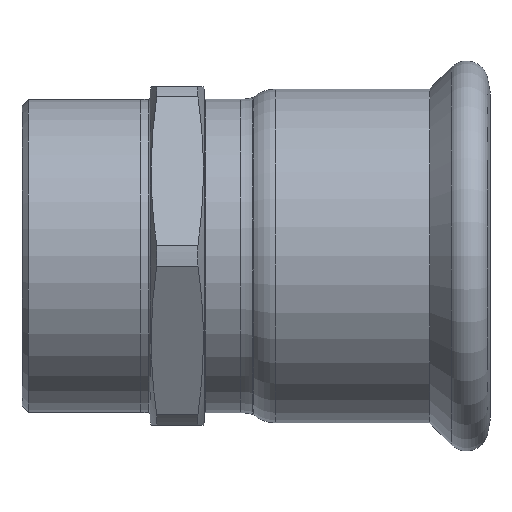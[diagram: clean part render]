
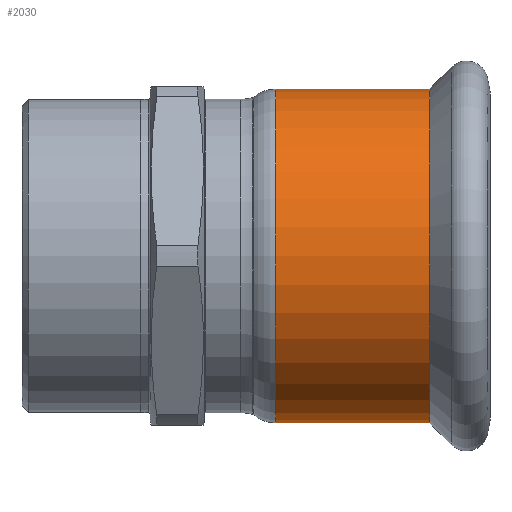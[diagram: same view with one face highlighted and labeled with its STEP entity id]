
A CAD part, top view. The second image highlights one B-rep face of the part: STEP entity #2030.
In plain terms, the highlighted cylindrical face has radius 46.85 mm (diameter 93.7 mm), a partial arc.
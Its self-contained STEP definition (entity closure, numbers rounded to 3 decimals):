
#1390=CARTESIAN_POINT('',(11.5,46.85,0.));
#1400=VERTEX_POINT('',#1390);
#1570=CARTESIAN_POINT('',(11.5,-46.85,0.));
#1580=VERTEX_POINT('',#1570);
#1610=CARTESIAN_POINT('',(11.5,0.,0.));
#1620=DIRECTION('',(1.,0.,0.));
#1630=DIRECTION('',(0.,1.,0.));
#1640=AXIS2_PLACEMENT_3D('',#1610,#1620,#1630);
#1650=CIRCLE('',#1640,46.85);
#1710=CARTESIAN_POINT('',(45.44,0.,0.));
#1720=DIRECTION('',(-1.,0.,0.));
#1730=DIRECTION('',(0.,1.,0.));
#1740=AXIS2_PLACEMENT_3D('',#1710,#1720,#1730);
#1750=CYLINDRICAL_SURFACE('',#1740,46.85);
#1760=CARTESIAN_POINT('',(45.44,-46.85,0.)
);
#1770=DIRECTION('',(-1.,0.,0.));
#1780=VECTOR('',#1770,1.);
#1790=LINE('',#1760,#1780);
#1800=CARTESIAN_POINT('',(54.615,-46.85,0.)
);
#1810=VERTEX_POINT('',#1800);
#1820=EDGE_CURVE('',#1810,#1580,#1790,.T.);
#1830=ORIENTED_EDGE('',*,*,#1820,.F.);
#1840=EDGE_CURVE('',#1400,#1580,#1650,.T.);
#1850=ORIENTED_EDGE('',*,*,#1840,.T.);
#1860=CARTESIAN_POINT('',(45.44,46.85,0.));
#1870=DIRECTION('',(-1.,0.,0.));
#1880=VECTOR('',#1870,1.);
#1890=LINE('',#1860,#1880);
#1900=CARTESIAN_POINT('',(54.615,46.85,0.));
#1910=VERTEX_POINT('',#1900);
#1920=EDGE_CURVE('',#1910,#1400,#1890,.T.);
#1930=ORIENTED_EDGE('',*,*,#1920,.T.);
#1940=CARTESIAN_POINT('',(54.615,0.,0.));
#1950=DIRECTION('',(1.,0.,0.));
#1960=DIRECTION('',(0.,-1.,0.));
#1970=AXIS2_PLACEMENT_3D('',#1940,#1950,#1960);
#1980=CIRCLE('',#1970,46.85);
#1990=EDGE_CURVE('',#1910,#1810,#1980,.T.);
#2000=ORIENTED_EDGE('',*,*,#1990,.F.);
#2010=EDGE_LOOP('',(#2000,#1930,#1850,#1830));
#2020=FACE_OUTER_BOUND('',#2010,.T.);
#2030=ADVANCED_FACE('',(#2020),#1750,.T.);
